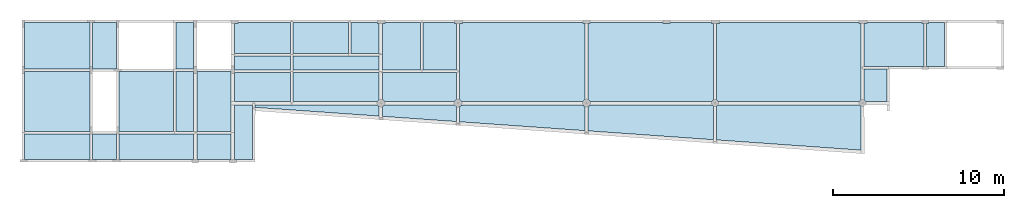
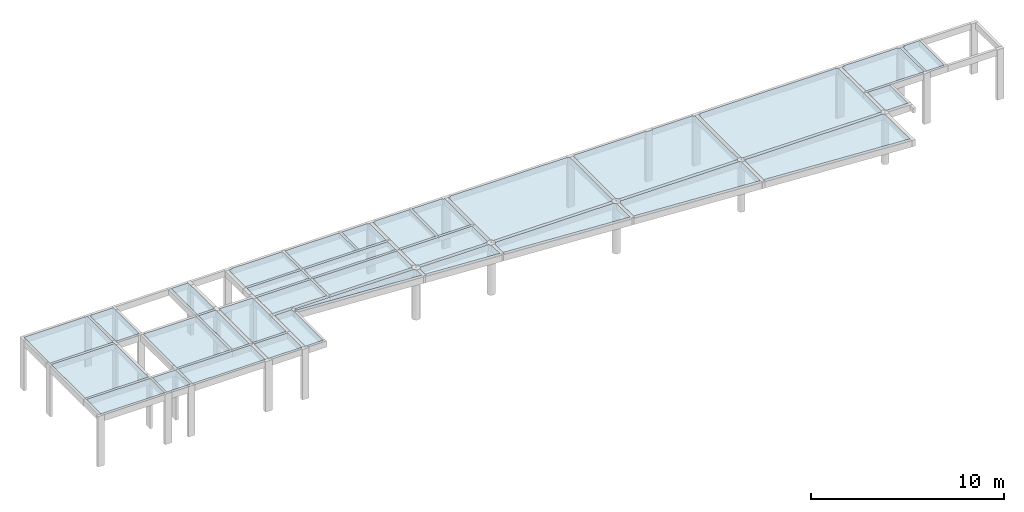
# One storey, part 3 of 3: 33 slabs.
"""IFC2X3 building model written with IfcOpenShell, lengths in centimetres."""

import ifcopenshell
import ifcopenshell.guid

model = None  # the IFC model being written
_history = None  # IfcOwnerHistory: only IFC2X3 demands one
_inside = {}  # id of a spatial element -> (the spatial element, [elements in it])
_under = {}  # id of a project, library or spatial element -> (it, [spatial elements below it])
_declared = {}  # id of a project -> (the project, [libraries it declares])
_typed = {}  # id of a type object -> (the type object, [elements of that type])
_made_of = {}  # id of a material, layer set ... -> (it, [elements and type objects made of it])


def new_model(schema):
    """Start an empty IFC model of exactly this schema.

    Asked for "IFC4X3", IfcOpenShell would pick the latest addendum, in which some entities
    have other attributes; the version numbers below select the first issue.
    IFC2X3 requires an IfcOwnerHistory on every rooted entity: one is made here for all.
    """
    global model, _history
    if schema == "IFC4X3":
        model = ifcopenshell.file(schema_version=(4, 3, 0, 0))
    else:
        model = ifcopenshell.file(schema=schema)
    _inside.clear()
    _under.clear()
    _declared.clear()
    _typed.clear()
    _made_of.clear()
    _history = None
    if model.schema == "IFC2X3":
        org = make("IfcOrganization", Name="unknown")
        user = make(
            "IfcPersonAndOrganization",
            ThePerson=make("IfcPerson", FamilyName="unknown"),
            TheOrganization=org,
        )
        app = make(
            "IfcApplication",
            ApplicationDeveloper=org,
            Version="unknown",
            ApplicationFullName="unknown",
            ApplicationIdentifier="unknown",
        )
        _history = make(
            "IfcOwnerHistory",
            OwningUser=user,
            OwningApplication=app,
            ChangeAction="ADDED",
            CreationDate=0,
        )
    return model


def make(cls, **values):
    """One entity of the class cls with the attributes given. An attribute that is None is left unset."""
    return model.create_entity(
        cls, **{name: value for name, value in values.items() if value is not None}
    )


def rooted(cls, **values):
    """An entity with a GlobalId (a new one), such as an element, a storey or a relation."""
    return make(cls, GlobalId=ifcopenshell.guid.new(), OwnerHistory=_history, **values)


def si_unit(unit_type, name, prefix=None):
    """IfcSIUnit, for example si_unit("LENGTHUNIT", "METRE", prefix="MILLI")."""
    return make("IfcSIUnit", UnitType=unit_type, Prefix=prefix, Name=name)


def derived_unit(unit_type, elements):
    """IfcDerivedUnit: a product of units, each with its exponent."""
    return make(
        "IfcDerivedUnit",
        Elements=[
            make("IfcDerivedUnitElement", Unit=unit, Exponent=power)
            for unit, power in elements
        ],
        UnitType=unit_type,
    )


def assignment(units):
    """IfcUnitAssignment: the units of a project."""
    return None if units is None else make("IfcUnitAssignment", Units=units)


def point(xyz):
    """IfcCartesianPoint."""
    return None if xyz is None else make("IfcCartesianPoint", Coordinates=xyz)


def direction(xyz):
    """IfcDirection."""
    return None if xyz is None else make("IfcDirection", DirectionRatios=xyz)


def frame(location, z_axis=None, x_axis=None):
    """IfcAxis2Placement3D, a coordinate frame: its origin and axes. An axis left out is left unset."""
    return make(
        "IfcAxis2Placement3D",
        Location=point(location),
        Axis=direction(z_axis),
        RefDirection=direction(x_axis),
    )


def origin():
    """The frame at (0, 0, 0) with its axes left unset."""
    return frame((0.0, 0.0, 0.0))


def origin_with_axes():
    """The frame at (0, 0, 0) with the z axis (0, 0, 1) and the x axis (1, 0, 0) written out."""
    return frame((0.0, 0.0, 0.0), z_axis=(0.0, 0.0, 1.0), x_axis=(1.0, 0.0, 0.0))


def place(relative_to, where):
    """IfcLocalPlacement: puts the frame where relative to a parent placement (None: the world)."""
    return make(
        "IfcLocalPlacement", PlacementRelTo=relative_to, RelativePlacement=where
    )


def context(
    kind, dimensions, precision=None, world=None, true_north=None, identifier=None
):
    """IfcGeometricRepresentationContext, for example the 3D "Model" context."""
    return make(
        "IfcGeometricRepresentationContext",
        ContextIdentifier=identifier,
        ContextType=kind,
        CoordinateSpaceDimension=dimensions,
        Precision=precision,
        WorldCoordinateSystem=world,
        TrueNorth=true_north,
    )


def project(units=None, contexts=None):
    """IfcProject with its units and contexts."""
    return rooted(
        "IfcProject",
        Name="project",
        RepresentationContexts=contexts,
        UnitsInContext=assignment(units),
    )


def spatial(cls, under=None, at=None, **own):
    """A site, building, storey or space (cls), placed at a placement, below another one or the project."""
    s = rooted(cls, ObjectPlacement=at, **own)
    if under is not None:
        _under.setdefault(under.id(), (under, []))[1].append(s)
    return s


def polyline(points):
    """IfcPolyline through the points."""
    return make("IfcPolyline", Points=[point(p) for p in points])


def outline(outer, holes=None, kind="AREA"):
    """IfcArbitraryClosedProfileDef: a profile drawn as a closed curve; with holes, ...WithVoids."""
    if holes is None:
        return make("IfcArbitraryClosedProfileDef", ProfileType=kind, OuterCurve=outer)
    return make(
        "IfcArbitraryProfileDefWithVoids",
        ProfileType=kind,
        OuterCurve=outer,
        InnerCurves=holes,
    )


def extrude(swept, where, along, depth):
    """IfcExtrudedAreaSolid: the profile swept, set in the frame where, extruded along a direction by depth."""
    return make(
        "IfcExtrudedAreaSolid",
        SweptArea=swept,
        Position=where,
        ExtrudedDirection=direction(along),
        Depth=depth,
    )


def shape(context_of_items, identifier, shape_type, items):
    """IfcShapeRepresentation: the items that make up one representation, for example the "Body"."""
    return make(
        "IfcShapeRepresentation",
        ContextOfItems=context_of_items,
        RepresentationIdentifier=identifier,
        RepresentationType=shape_type,
        Items=items,
    )


def material(Name=None, Category=None):
    """IfcMaterial."""
    return make("IfcMaterial", Name=Name, Category=Category)


def made_of(thing, what):
    """Note that an element or type object is made of a material, layer set ...; save() writes the relation."""
    if what is not None:
        _made_of.setdefault(what.id(), (what, []))[1].append(thing)
    return thing


def element(
    cls,
    number,
    at=None,
    inside=None,
    cuts=None,
    type_object=None,
    material=None,
    context=None,
    identifier="Body",
    shape_type=None,
    held_by="IfcProductDefinitionShape",
    body=None,
    shapes=None,
    **own,
):
    """One element of the class cls, such as IfcWall. Its Tag is "e" and its number.

    at: its placement. inside: the storey or other place that contains it. cuts: it is an
    opening in that element (IfcRelVoidsElement). A single representation is given by context,
    identifier, shape_type and body (its items); several are given by shapes. held_by: the class
    of the entity that holds the representations. save() writes the other relations.
    """
    e = rooted(cls, Tag="e%d" % number, ObjectPlacement=at, **own)
    if body is not None:
        shapes = [shape(context, identifier, shape_type, body)]
    if shapes is not None:
        e.Representation = make(held_by, Representations=shapes)
    if inside is not None:
        _inside.setdefault(inside.id(), (inside, []))[1].append(e)
    if cuts is not None:
        rooted(
            "IfcRelVoidsElement", RelatingBuildingElement=cuts, RelatedOpeningElement=e
        )
    if type_object is not None:
        _typed.setdefault(type_object.id(), (type_object, []))[1].append(e)
    return made_of(e, material)


def aggregate(whole, parts):
    """IfcRelAggregates: a whole, such as a stair, and the parts it consists of."""
    return rooted("IfcRelAggregates", RelatingObject=whole, RelatedObjects=parts)


def save(model, path):
    """Write the relations noted so far, then the file.

    IfcRelAggregates (storeys below a building ...), IfcRelContainedInSpatialStructure (elements
    in a storey), IfcRelDefinesByType, IfcRelAssociatesMaterial and IfcRelDeclares: one each for
    every whole, place, type object, material and project.
    """
    for whole, parts in _under.values():
        aggregate(whole, parts)
    for where, things in _inside.values():
        rooted(
            "IfcRelContainedInSpatialStructure",
            RelatedElements=things,
            RelatingStructure=where,
        )
    for kind, things in _typed.values():
        rooted("IfcRelDefinesByType", RelatedObjects=things, RelatingType=kind)
    for what, things in _made_of.values():
        rooted("IfcRelAssociatesMaterial", RelatedObjects=things, RelatingMaterial=what)
    for by, libraries in _declared.values():
        rooted("IfcRelDeclares", RelatingContext=by, RelatedDefinitions=libraries)
    model.write(path)


model = new_model("IFC2X3")

# Units and contexts
model_context = context("Model", 3, precision=1e-05, world=origin_with_axes(), identifier="Body")
ifc_project = project(units=[si_unit("LENGTHUNIT", "METRE", prefix="CENTI"), si_unit("VOLUMEUNIT", "CUBIC_METRE"), si_unit("AREAUNIT", "SQUARE_METRE"), si_unit("POWERUNIT", "WATT"), si_unit("LUMINOUSFLUXUNIT", "LUMEN"), si_unit("ELECTRICCURRENTUNIT", "AMPERE"), si_unit("PRESSUREUNIT", "PASCAL", prefix="KILO"), si_unit("MASSUNIT", "GRAM", prefix="KILO"), si_unit("PLANEANGLEUNIT", "RADIAN"), derived_unit("VOLUMETRICFLOWRATEUNIT", [(si_unit("LENGTHUNIT", "METRE"), 3), (si_unit("TIMEUNIT", "SECOND"), -1)])], contexts=[model_context])

# Site, building, storey
site_placement = place(None, origin_with_axes())
site = spatial("IfcSite", under=ifc_project, at=site_placement)
building_placement = place(site_placement, origin())
building = spatial("IfcBuilding", under=site, at=building_placement)
placement_1 = place(building_placement, origin_with_axes())
placement_2 = place(placement_1, frame((0.0, 0.0, 80.0), z_axis=(0.0, 0.0, 1.0), x_axis=(1.0, 0.0, 0.0)))
placement_3 = place(placement_2, frame((0.0, 0.0, 320.0), z_axis=(0.0, 0.0, 1.0), x_axis=(1.0, 0.0, 0.0)))
storey_placement = place(placement_3, frame((0.0, 0.0, 320.0), z_axis=(0.0, 0.0, 1.0), x_axis=(1.0, 0.0, 0.0)))
storey = spatial("IfcBuildingStorey", under=building, at=storey_placement, Name="04. Cobertura", CompositionType="ELEMENT", Elevation=720.0)

# Slabs
ifc_material = material(Name="Concreto")
slab_1_placement = place(storey_placement, frame((-1250.4605, -424.1105, 0.0), z_axis=(0.0, 0.0, 1.0), x_axis=(1.0, 0.0, 0.0)))
element("IfcSlab", 1, at=slab_1_placement, inside=storey, material=ifc_material, Name="L1", PredefinedType="FLOOR", context=model_context, shape_type="SolidModel", body=[
    extrude(outline(polyline([(189.999, 134.53), (177.499, 134.53), (177.5, 134.999), (-190.0, 134.999), (-189.999, -135.0), (189.999, -135.0), (189.999, 134.53), (189.999, 134.53)])), frame((0.0005, 0.0005, -12.0), z_axis=(0.0, 0.0, 1.0), x_axis=(1.0, 0.0, 0.0)), (0.0, 0.0, 1.0), 12.0),
])
slab_2_placement = place(storey_placement, frame((2213.6705, -519.035, 0.0), z_axis=(0.0, 0.0, 1.0), x_axis=(1.0, 0.0, 0.0)))
element("IfcSlab", 2, at=slab_2_placement, inside=storey, material=ifc_material, Name="L10", PredefinedType="FLOOR", context=model_context, shape_type="SolidModel", body=[
    extrude(outline(polyline([(360.86, -225.785), (365.0, -222.605), (365.0, 224.925), (354.869, 224.925), (354.87, 229.924), (111.87, 229.925), (111.869, 224.925), (71.869, 224.925), (71.87, 229.925), (-355.129, 229.925), (-355.13, 224.925), (-364.999, 224.924), (-364.999, -219.919), (-363.749, -220.435), (-359.09, -224.014), (-355.509, -228.675), (-354.994, -229.925), (357.679, -229.925), (360.86, -225.785), (360.86, -225.785)])), frame((-0.0005, 0.0, -20.0), z_axis=(0.0, 0.0, 1.0), x_axis=(1.0, 0.0, 0.0)), (0.0, 0.0, 1.0), 20.0),
])
slab_3_placement = place(storey_placement, frame((3019.1705, -519.035, 0.0), z_axis=(0.0, 0.0, 1.0), x_axis=(1.0, 0.0, 0.0)))
element("IfcSlab", 3, at=slab_3_placement, inside=storey, material=ifc_material, Name="L11", PredefinedType="FLOOR", context=model_context, shape_type="SolidModel", body=[
    extrude(outline(polyline([(416.36, -225.785), (420.5, -222.605), (420.429, -32.575), (420.37, 224.924), (410.369, 224.925), (410.369, 229.925), (-405.63, 229.924), (-405.63, 224.925), (-420.499, 224.925), (-420.499, -222.605), (-416.36, -225.785), (-413.18, -229.925), (413.179, -229.925), (416.36, -225.785), (416.36, -225.785)])), frame((-0.0005, 0.0, -20.0), z_axis=(0.0, 0.0, 1.0), x_axis=(1.0, 0.0, 0.0)), (0.0, 0.0, 1.0), 20.0),
])
slab_4_placement = place(storey_placement, frame((3634.04, -416.61, 0.0), z_axis=(0.0, 0.0, 1.0), x_axis=(1.0, 0.0, 0.0)))
element("IfcSlab", 4, at=slab_4_placement, inside=storey, material=ifc_material, Name="L12", PredefinedType="FLOOR", context=model_context, shape_type="SolidModel", body=[
    extrude(outline(polyline([(174.49865451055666, -127.499), (174.49865451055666, 122.5), (161.99865451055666, 122.499), (161.99965451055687, 127.5), (-159.49934548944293, 127.499), (-159.50034548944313, 122.499), (-174.49934548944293, 122.499), (-174.44134548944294, -127.5), (174.49865451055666, -127.499), (174.49865451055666, -127.499)])), frame((0.000345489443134, 0.0, -12.0), z_axis=(0.0, 0.0, 1.0), x_axis=(1.0, 0.0, 0.0)), (0.0, 0.0, 1.0), 12.0),
])
slab_5_placement = place(storey_placement, frame((3876.0395, -416.61, 0.0), z_axis=(0.0, 0.0, 1.0), x_axis=(1.0, 0.0, 0.0)))
element("IfcSlab", 5, at=slab_5_placement, inside=storey, material=ifc_material, Name="L13", PredefinedType="FLOOR", context=model_context, shape_type="SolidModel", body=[
    extrude(outline(polyline([(52.499, 127.5), (-40.0, 127.5), (-40.0, 122.499), (-52.5, 122.5), (-52.5, -127.499), (52.499, -127.5), (52.499, 127.5), (52.499, 127.5)])), frame((0.0005, 0.0, -12.0), z_axis=(0.0, 0.0, 1.0), x_axis=(1.0, 0.0, 0.0)), (0.0, 0.0, 1.0), 12.0),
])
slab_6_placement = place(storey_placement, frame((-52.96, -525.36, 0.0), z_axis=(0.0, 0.0, 1.0), x_axis=(1.0, 0.0, 0.0)))
element("IfcSlab", 6, at=slab_6_placement, inside=storey, material=ifc_material, Name="L14", PredefinedType="FLOOR", context=model_context, shape_type="SolidModel", body=[
    extrude(outline(polyline([(162.5, 41.25), (-162.499, 41.249), (-162.5, -41.25), (162.5, -41.25), (162.5, 41.25), (162.5, 41.25)])), frame((0.0, 0.0, -12.0), z_axis=(0.0, 0.0, 1.0), x_axis=(1.0, 0.0, 0.0)), (0.0, 0.0, 1.0), 12.0),
])
slab_7_placement = place(storey_placement, frame((376.6055, -525.36, 0.0), z_axis=(0.0, 0.0, 1.0), x_axis=(1.0, 0.0, 0.0)))
element("IfcSlab", 7, at=slab_7_placement, inside=storey, material=ifc_material, Name="L15", PredefinedType="FLOOR", context=model_context, shape_type="SolidModel", body=[
    extrude(outline(polyline([(252.065, 41.25), (-252.064, 41.249), (-252.064, -41.25), (252.065, -41.25), (252.065, 41.25), (252.065, 41.25)])), frame((-0.0005, 0.0, -12.0), z_axis=(0.0, 0.0, 1.0), x_axis=(1.0, 0.0, 0.0)), (0.0, 0.0, 1.0), 12.0),
])
slab_8_placement = place(storey_placement, frame((-1250.46, -749.11, 0.0), z_axis=(0.0, 0.0, 1.0), x_axis=(1.0, 0.0, 0.0)))
element("IfcSlab", 8, at=slab_8_placement, inside=storey, material=ifc_material, Name="L16", PredefinedType="FLOOR", context=model_context, shape_type="SolidModel", body=[
    extrude(outline(polyline([(190.0, -175.0), (189.999, 174.999), (-190.0, 175.0), (-190.0, -175.0), (190.0, -175.0), (190.0, -175.0)])), frame((0.0, 0.0, -12.0), z_axis=(0.0, 0.0, 1.0), x_axis=(1.0, 0.0, 0.0)), (0.0, 0.0, 1.0), 12.0),
])
slab_9_placement = place(storey_placement, frame((-731.7105, -749.11, 0.0), z_axis=(0.0, 0.0, 1.0), x_axis=(1.0, 0.0, 0.0)))
element("IfcSlab", 9, at=slab_9_placement, inside=storey, material=ifc_material, Name="L17", PredefinedType="FLOOR", context=model_context, shape_type="SolidModel", body=[
    extrude(outline(polyline([(158.749, 175.0), (-158.75, 174.999), (-158.75, -175.0), (158.749, -175.0), (158.749, 175.0), (158.749, 175.0)])), frame((0.0005, 0.0, -12.0), z_axis=(0.0, 0.0, 1.0), x_axis=(1.0, 0.0, 0.0)), (0.0, 0.0, 1.0), 12.0),
])
slab_10_placement = place(storey_placement, frame((-506.7095, -749.1095, 0.0), z_axis=(0.0, 0.0, 1.0), x_axis=(1.0, 0.0, 0.0)))
element("IfcSlab", 10, at=slab_10_placement, inside=storey, material=ifc_material, Name="L18", PredefinedType="FLOOR", context=model_context, shape_type="SolidModel", body=[
    extrude(outline(polyline([(51.249, -174.999), (51.25, 175.0), (-51.249, 175.0), (-51.249, -174.999), (51.249, -174.999), (51.249, -174.999)])), frame((-0.0005, -0.0005, -12.0), z_axis=(0.0, 0.0, 1.0), x_axis=(1.0, 0.0, 0.0)), (0.0, 0.0, 1.0), 12.0),
])
slab_11_placement = place(storey_placement, frame((-335.4595, -749.11, 0.0), z_axis=(0.0, 0.0, 1.0), x_axis=(1.0, 0.0, 0.0)))
element("IfcSlab", 11, at=slab_11_placement, inside=storey, material=ifc_material, Name="L19", PredefinedType="FLOOR", context=model_context, shape_type="SolidModel", body=[
    extrude(outline(polyline([(99.999, -175.0), (100.0, 175.0), (-99.999, 175.0), (-99.999, -175.0), (99.999, -175.0), (99.999, -175.0)])), frame((-0.0005, 0.0, -12.0), z_axis=(0.0, 0.0, 1.0), x_axis=(1.0, 0.0, 0.0)), (0.0, 0.0, 1.0), 12.0),
])
slab_12_placement = place(storey_placement, frame((-975.46, -424.11, 0.0), z_axis=(0.0, 0.0, 1.0), x_axis=(1.0, 0.0, 0.0)))
element("IfcSlab", 12, at=slab_12_placement, inside=storey, material=ifc_material, Name="L2", PredefinedType="FLOOR", context=model_context, shape_type="SolidModel", body=[
    extrude(outline(polyline([(69.999, -134.999), (70.0, 134.999), (-57.5, 134.999), (-57.5, 134.53), (-70.0, 134.53), (-69.999, -134.999), (69.999, -134.999), (69.999, -134.999)])), frame((0.0, 0.0, -12.0), z_axis=(0.0, 0.0, 1.0), x_axis=(1.0, 0.0, 0.0)), (0.0, 0.0, 1.0), 12.0),
])
slab_13_placement = place(storey_placement, frame((-52.9595, -665.2855, 0.0), z_axis=(0.0, 0.0, 1.0), x_axis=(1.0, 0.0, 0.0)))
element("IfcSlab", 13, at=slab_13_placement, inside=storey, material=ifc_material, Name="L20", PredefinedType="FLOOR", context=model_context, shape_type="SolidModel", body=[
    extrude(outline(polyline([(162.5, 83.674), (-162.499, 83.674), (-162.499, -83.674), (162.499, -83.675), (162.5, 83.674), (162.5, 83.674)])), frame((-0.0005, 0.0005, -12.0), z_axis=(0.0, 0.0, 1.0), x_axis=(1.0, 0.0, 0.0)), (0.0, 0.0, 1.0), 12.0),
])
slab_14_placement = place(storey_placement, frame((376.6055, -665.2855, 0.0), z_axis=(0.0, 0.0, 1.0), x_axis=(1.0, 0.0, 0.0)))
element("IfcSlab", 14, at=slab_14_placement, inside=storey, material=ifc_material, Name="L21", PredefinedType="FLOOR", context=model_context, shape_type="SolidModel", body=[
    extrude(outline(polyline([(242.574, -82.425), (246.155, -77.764), (250.814, -74.185), (252.064, -73.669), (252.065, 83.674), (-252.064, 83.674), (-252.064, -83.675), (242.059, -83.675), (242.574, -82.425), (242.574, -82.425)])), frame((-0.0005, 0.0005, -12.0), z_axis=(0.0, 0.0, 1.0), x_axis=(1.0, 0.0, 0.0)), (0.0, 0.0, 1.0), 12.0),
])
slab_15_placement = place(storey_placement, frame((863.67, -665.2855, 0.0), z_axis=(0.0, 0.0, 1.0), x_axis=(1.0, 0.0, 0.0)))
element("IfcSlab", 15, at=slab_15_placement, inside=storey, material=ifc_material, Name="L22", PredefinedType="FLOOR", context=model_context, shape_type="SolidModel", body=[
    extrude(outline(polyline([(205.51, -82.425), (209.09, -77.764), (213.75, -74.185), (215.0, -73.669), (214.999, 83.674), (-215.0, 83.674), (-215.0, -73.669), (-213.75, -74.185), (-209.089, -77.764), (-205.51, -82.425), (-204.994, -83.675), (204.994, -83.675), (205.51, -82.425), (205.51, -82.425)])), frame((0.0, 0.0005, -12.0), z_axis=(0.0, 0.0, 1.0), x_axis=(1.0, 0.0, 0.0)), (0.0, 0.0, 1.0), 12.0),
])
slab_16_placement = place(storey_placement, frame((3526.071, -654.035, 0.0), z_axis=(0.0, 0.0, 1.0), x_axis=(1.0, 0.0, 0.0)))
element("IfcSlab", 16, at=slab_16_placement, inside=storey, material=ifc_material, Name="L23", PredefinedType="FLOOR", context=model_context, shape_type="SolidModel", body=[
    extrude(outline(polyline([(66.46764010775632, -94.924), (66.46764010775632, 94.924), (-66.46835989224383, 94.925), (-66.40035989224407, -87.604), (-62.261359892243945, -90.785), (-59.08135989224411, -94.925), (66.46764010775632, -94.924), (66.46764010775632, -94.924)])), frame((0.000359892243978, 0.0, -12.0), z_axis=(0.0, 0.0, 1.0), x_axis=(1.0, 0.0, 0.0)), (0.0, 0.0, 1.0), 12.0),
])
slab_17_placement = place(storey_placement, frame((-162.6105, -929.0305, 0.0), z_axis=(0.0, 0.0, 1.0), x_axis=(1.0, 0.0, 0.0)))
element("IfcSlab", 17, at=slab_17_placement, inside=storey, material=ifc_material, Name="L24", PredefinedType="FLOOR", context=model_context, shape_type="SolidModel", body=[
    extrude(outline(polyline([(52.849, 135.37), (52.349, 160.069), (-52.85, 160.069), (-52.85, -160.069), (52.167, -160.07), (52.849, 135.37), (52.849, 135.37)])), frame((0.0005, 0.0005, -12.0), z_axis=(0.0, 0.0, 1.0), x_axis=(1.0, 0.0, 0.0)), (0.0, 0.0, 1.0), 12.0),
])
slab_18_placement = place(storey_placement, frame((266.708, -802.072, 0.0), z_axis=(0.0, 0.0, 1.0), x_axis=(1.0, 0.0, 0.0)))
element("IfcSlab", 18, at=slab_18_placement, inside=storey, material=ifc_material, Name="L25", PredefinedType="FLOOR", context=model_context, shape_type="SolidModel", body=[
    extrude(outline(polyline([(361.96244515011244, 23.106215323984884), (360.71144515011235, 23.62121532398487), (356.05244515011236, 27.20121532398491), (352.47144515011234, 31.86121532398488), (351.95644515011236, 33.112215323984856), (-361.96155484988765, 33.11121532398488), (-361.65655484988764, 17.985215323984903), (361.96244515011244, -33.11178467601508), (361.96244515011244, 23.106215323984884), (361.96244515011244, 23.106215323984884)])), frame((-0.000445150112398, -0.000215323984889, -12.0), z_axis=(0.0, 0.0, 1.0), x_axis=(1.0, 0.0, 0.0)), (0.0, 0.0, 1.0), 12.0),
])
slab_19_placement = place(storey_placement, frame((863.6705, -817.9625, 0.0), z_axis=(0.0, 0.0, 1.0), x_axis=(1.0, 0.0, 0.0)))
element("IfcSlab", 19, at=slab_19_placement, inside=storey, material=ifc_material, Name="L26", PredefinedType="FLOOR", context=model_context, shape_type="SolidModel", body=[
    extrude(outline(polyline([(215.0, 38.996171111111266), (213.75, 39.51117111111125), (209.09, 43.091171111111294), (205.51, 47.75117111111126), (204.994, 49.00117111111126), (-204.994, 49.00117111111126), (-205.51, 47.75117111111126), (-209.089, 43.091171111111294), (-213.75, 39.51117111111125), (-214.999, 38.996171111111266), (-214.999, -18.63382888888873), (215.0, -49.00182888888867), (215.0, 38.996171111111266), (215.0, 38.996171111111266)])), frame((-0.0005, 0.000328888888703, -12.0), z_axis=(0.0, 0.0, 1.0), x_axis=(1.0, 0.0, 0.0)), (0.0, 0.0, 1.0), 12.0),
])
slab_20_placement = place(storey_placement, frame((1463.67, -844.447, 0.0), z_axis=(0.0, 0.0, 1.0), x_axis=(1.0, 0.0, 0.0)))
element("IfcSlab", 20, at=slab_20_placement, inside=storey, material=ifc_material, Name="L27", PredefinedType="FLOOR", context=model_context, shape_type="SolidModel", body=[
    extrude(outline(polyline([(365.0, 65.4811473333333), (363.75, 65.99614733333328), (359.09, 69.5771473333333), (355.51, 74.23614733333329), (354.994, 75.48714733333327), (-354.994, 75.48714733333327), (-355.509, 74.23614733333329), (-359.09, 69.5771473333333), (-363.749, 65.99614733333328), (-365.0, 65.4811473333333), (-365.0, -23.92885266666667), (365.0, -75.48685266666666), (365.0, 65.4811473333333), (365.0, 65.4811473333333)])), frame((0.0, -0.000147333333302, -12.0), z_axis=(0.0, 0.0, 1.0), x_axis=(1.0, 0.0, 0.0)), (0.0, 0.0, 1.0), 12.0),
])
slab_21_placement = place(storey_placement, frame((2213.67, -870.932, 0.0), z_axis=(0.0, 0.0, 1.0), x_axis=(1.0, 0.0, 0.0)))
element("IfcSlab", 21, at=slab_21_placement, inside=storey, material=ifc_material, Name="L28", PredefinedType="FLOOR", context=model_context, shape_type="SolidModel", body=[
    extrude(outline(polyline([(365.0, 94.65214733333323), (360.86, 97.8311473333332), (357.679, 101.97114733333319), (-354.994, 101.97214733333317), (-355.509, 100.72114733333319), (-359.09, 96.0621473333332), (-363.749, 92.48114733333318), (-365.0, 91.9661473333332), (-365.0, -50.4138526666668), (365.0, -101.97185266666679), (365.0, 94.65214733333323), (365.0, 94.65214733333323)])), frame((0.0, -0.000147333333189, -12.0), z_axis=(0.0, 0.0, 1.0), x_axis=(1.0, 0.0, 0.0)), (0.0, 0.0, 1.0), 12.0),
])
slab_22_placement = place(storey_placement, frame((3019.506, -901.3565, 0.0), z_axis=(0.0, 0.0, 1.0), x_axis=(1.0, 0.0, 0.0)))
element("IfcSlab", 22, at=slab_22_placement, inside=storey, material=ifc_material, Name="L29", PredefinedType="FLOOR", context=model_context, shape_type="SolidModel", body=[
    extrude(outline(polyline([(420.16404955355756, 125.07621107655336), (416.02404955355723, 128.25521107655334), (412.84304955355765, 132.39521107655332), (-413.51595044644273, 132.39521107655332), (-416.69595044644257, 128.25521107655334), (-420.8349504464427, 125.07621107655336), (-420.8349504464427, -72.9597889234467), (420.8350495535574, -132.39578892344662), (420.16404955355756, 125.07621107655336), (420.16404955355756, 125.07621107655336)])), frame((-4.9553557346e-05, 0.000288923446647, -12.0), z_axis=(0.0, 0.0, 1.0), x_axis=(1.0, 0.0, 0.0)), (0.0, 0.0, 1.0), 12.0),
])
slab_23_placement = place(storey_placement, frame((-506.71, -424.11, 0.0), z_axis=(0.0, 0.0, 1.0), x_axis=(1.0, 0.0, 0.0)))
element("IfcSlab", 23, at=slab_23_placement, inside=storey, material=ifc_material, Name="L3", PredefinedType="FLOOR", context=model_context, shape_type="SolidModel", body=[
    extrude(outline(polyline([(51.25, -135.0), (51.249, 135.0), (-51.25, 135.0), (-51.25, -135.0), (51.25, -135.0), (51.25, -135.0)])), frame((0.0, 0.0, -12.0), z_axis=(0.0, 0.0, 1.0), x_axis=(1.0, 0.0, 0.0)), (0.0, 0.0, 1.0), 12.0),
])
slab_24_placement = place(storey_placement, frame((-1250.4605, -1014.1105, 0.0), z_axis=(0.0, 0.0, 1.0), x_axis=(1.0, 0.0, 0.0)))
element("IfcSlab", 24, at=slab_24_placement, inside=storey, material=ifc_material, Name="L30", PredefinedType="FLOOR", context=model_context, shape_type="SolidModel", body=[
    extrude(outline(polyline([(-190.0, -75.0), (189.999, -74.989), (189.999, 74.999), (-190.0, 74.999), (-190.0, -75.0), (-190.0, -75.0)])), frame((0.0005, 0.0005, -12.0), z_axis=(0.0, 0.0, 1.0), x_axis=(1.0, 0.0, 0.0)), (0.0, 0.0, 1.0), 12.0),
])
slab_25_placement = place(storey_placement, frame((-975.46, -1014.105, 0.0), z_axis=(0.0, 0.0, 1.0), x_axis=(1.0, 0.0, 0.0)))
element("IfcSlab", 25, at=slab_25_placement, inside=storey, material=ifc_material, Name="L31", PredefinedType="FLOOR", context=model_context, shape_type="SolidModel", body=[
    extrude(outline(polyline([(69.999, 74.994), (-70.0, 74.994), (-69.999, -74.994), (70.0, -74.994), (69.999, 74.994), (69.999, 74.994)])), frame((0.0, 0.0, -12.0), z_axis=(0.0, 0.0, 1.0), x_axis=(1.0, 0.0, 0.0)), (0.0, 0.0, 1.0), 12.0),
])
slab_26_placement = place(storey_placement, frame((-672.96, -1014.105, 0.0), z_axis=(0.0, 0.0, 1.0), x_axis=(1.0, 0.0, 0.0)))
element("IfcSlab", 26, at=slab_26_placement, inside=storey, material=ifc_material, Name="L32", PredefinedType="FLOOR", context=model_context, shape_type="SolidModel", body=[
    extrude(outline(polyline([(217.5, 74.994), (-217.5, 74.994), (-217.499, -74.994), (217.5, -74.994), (217.5, 74.994), (217.5, 74.994)])), frame((0.0, 0.0, -12.0), z_axis=(0.0, 0.0, 1.0), x_axis=(1.0, 0.0, 0.0)), (0.0, 0.0, 1.0), 12.0),
])
slab_27_placement = place(storey_placement, frame((-335.4595, -1014.1045, 0.0), z_axis=(0.0, 0.0, 1.0), x_axis=(1.0, 0.0, 0.0)))
element("IfcSlab", 27, at=slab_27_placement, inside=storey, material=ifc_material, Name="L33", PredefinedType="FLOOR", context=model_context, shape_type="SolidModel", body=[
    extrude(outline(polyline([(100.0, 74.995), (-99.999, 74.995), (-99.999, -74.994), (100.0, -74.994), (100.0, 74.995), (100.0, 74.995)])), frame((-0.0005, -0.0005, -12.0), z_axis=(0.0, 0.0, 1.0), x_axis=(1.0, 0.0, 0.0)), (0.0, 0.0, 1.0), 12.0),
])
slab_28_placement = place(storey_placement, frame((-52.96, -379.1105, 0.0), z_axis=(0.0, 0.0, 1.0), x_axis=(1.0, 0.0, 0.0)))
element("IfcSlab", 28, at=slab_28_placement, inside=storey, material=ifc_material, Name="L4", PredefinedType="FLOOR", context=model_context, shape_type="SolidModel", body=[
    extrude(outline(polyline([(162.5, 89.999), (-142.499, 89.999), (-142.5, 84.999), (-162.5, 85.0), (-162.5, -90.0), (162.5, -90.0), (162.5, 89.999), (162.5, 89.999)])), frame((0.0, 0.0005, -12.0), z_axis=(0.0, 0.0, 1.0), x_axis=(1.0, 0.0, 0.0)), (0.0, 0.0, 1.0), 12.0),
])
slab_29_placement = place(storey_placement, frame((287.04, -379.11, 0.0), z_axis=(0.0, 0.0, 1.0), x_axis=(1.0, 0.0, 0.0)))
element("IfcSlab", 29, at=slab_29_placement, inside=storey, material=ifc_material, Name="L5", PredefinedType="FLOOR", context=model_context, shape_type="SolidModel", body=[
    extrude(outline(polyline([(162.5, 89.999), (-162.5, 89.999), (-162.5, -89.999), (162.499, -89.999), (162.5, 89.999), (162.5, 89.999)])), frame((0.0, 0.0, -12.0), z_axis=(0.0, 0.0, 1.0), x_axis=(1.0, 0.0, 0.0)), (0.0, 0.0, 1.0), 12.0),
])
slab_30_placement = place(storey_placement, frame((546.6045, -379.11, 0.0), z_axis=(0.0, 0.0, 1.0), x_axis=(1.0, 0.0, 0.0)))
element("IfcSlab", 30, at=slab_30_placement, inside=storey, material=ifc_material, Name="L6", PredefinedType="FLOOR", context=model_context, shape_type="SolidModel", body=[
    extrude(outline(polyline([(82.064, 84.999), (71.934, 84.999), (71.934, 90.0), (-82.065, 90.0), (-82.065, -90.0), (82.064, -90.0), (82.064, 84.999), (82.064, 84.999)])), frame((0.0005, 0.0, -12.0), z_axis=(0.0, 0.0, 1.0), x_axis=(1.0, 0.0, 0.0)), (0.0, 0.0, 1.0), 12.0),
])
slab_31_placement = place(storey_placement, frame((759.105, -427.8595, 0.0), z_axis=(0.0, 0.0, 1.0), x_axis=(1.0, 0.0, 0.0)))
element("IfcSlab", 31, at=slab_31_placement, inside=storey, material=ifc_material, Name="L7", PredefinedType="FLOOR", context=model_context, shape_type="SolidModel", body=[
    extrude(outline(polyline([(110.435, 138.75), (-95.565, 138.75), (-95.565, 133.75), (-110.435, 133.749), (-110.434, -138.749), (110.435, -138.749), (110.435, 138.75), (110.435, 138.75)])), frame((0.0, -0.0005, -12.0), z_axis=(0.0, 0.0, 1.0), x_axis=(1.0, 0.0, 0.0)), (0.0, 0.0, 1.0), 12.0),
])
slab_32_placement = place(storey_placement, frame((981.605, -427.8605, 0.0), z_axis=(0.0, 0.0, 1.0), x_axis=(1.0, 0.0, 0.0)))
element("IfcSlab", 32, at=slab_32_placement, inside=storey, material=ifc_material, Name="L8", PredefinedType="FLOOR", context=model_context, shape_type="SolidModel", body=[
    extrude(outline(polyline([(97.065, 133.749), (86.934, 133.75), (86.934, 138.749), (-97.065, 138.749), (-97.065, -138.75), (97.065, -138.75), (97.065, 133.749), (97.065, 133.749)])), frame((0.0, 0.0005, -12.0), z_axis=(0.0, 0.0, 1.0), x_axis=(1.0, 0.0, 0.0)), (0.0, 0.0, 1.0), 12.0),
])
slab_33_placement = place(storey_placement, frame((1463.6705, -519.035, 0.0), z_axis=(0.0, 0.0, 1.0), x_axis=(1.0, 0.0, 0.0)))
element("IfcSlab", 33, at=slab_33_placement, inside=storey, material=ifc_material, Name="L9", PredefinedType="FLOOR", context=model_context, shape_type="SolidModel", body=[
    extrude(outline(polyline([(355.51, -228.675), (359.09, -224.014), (363.75, -220.435), (365.0, -219.919), (364.999, 224.924), (354.869, 224.925), (354.869, 229.925), (-350.129, 229.925), (-350.13, 224.925), (-364.999, 224.924), (-364.999, -219.919), (-363.749, -220.435), (-359.09, -224.014), (-355.509, -228.675), (-354.994, -229.925), (354.994, -229.925), (355.51, -228.675), (355.51, -228.675)])), frame((-0.0005, 0.0, -20.0), z_axis=(0.0, 0.0, 1.0), x_axis=(1.0, 0.0, 0.0)), (0.0, 0.0, 1.0), 20.0),
])

save(model, "model.ifc")
